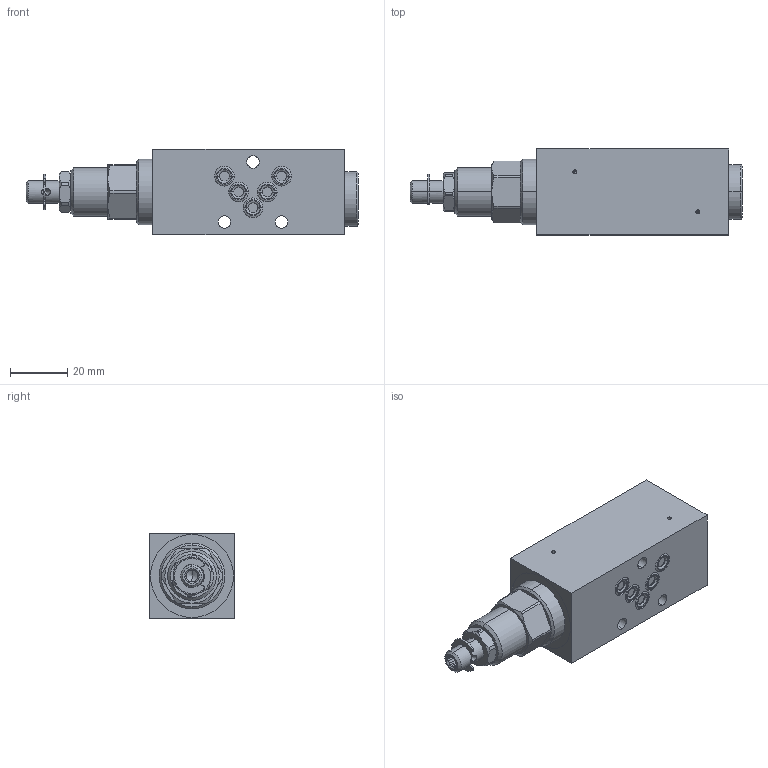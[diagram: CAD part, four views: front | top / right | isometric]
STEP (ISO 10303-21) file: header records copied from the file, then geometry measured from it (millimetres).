
FILE_DESCRIPTION (( 'STEP AP214' ), '1' );
FILE_NAME ('B.SFA06-P.STEP', '2017-03-23T06:46:14', ( '' ), ( '' ), 'SwSTEP 2.0', 'SolidWorks 2016', '' );
FILE_SCHEMA (( 'AUTOMOTIVE_DESIGN' ));
Length unit declared in the file: millimetre
Products named in the file (1): B.SFA06-P
Bounding box: 116 x 30 x 30 mm (x, y, z)
Volume: 68934 mm3; surface area: 15222.8 mm2
Topology: 8 solids, 9 shells, 267 faces, 653 edges, 416 vertices
Faces by surface type: cylinder 102, plane 86, bspline 40, cone 37, torus 2
Entity records: 11623 total; most frequent: CARTESIAN_POINT 2381, DIRECTION 1344, ORIENTED_EDGE 1290, EDGE_CURVE 645, AXIS2_PLACEMENT_3D 567, VERTEX_POINT 416, CIRCLE 339, EDGE_LOOP 307
